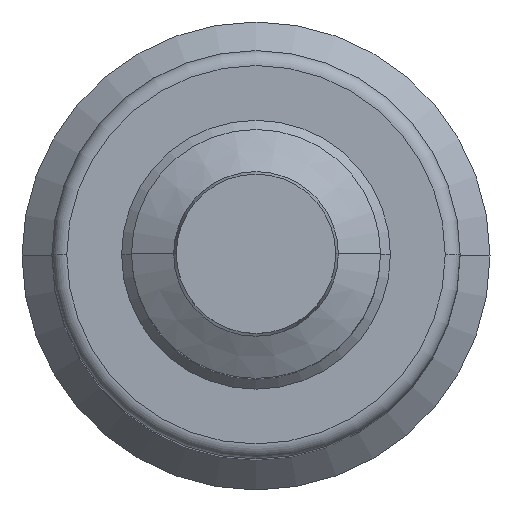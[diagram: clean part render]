
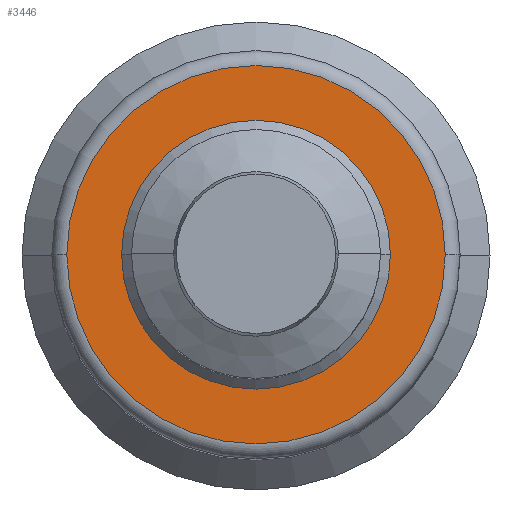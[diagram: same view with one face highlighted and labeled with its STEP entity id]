
A CAD part, top view. The second image highlights one B-rep face of the part: STEP entity #3446.
In plain terms, the highlighted planar face has unit normal (0, 0, 1).
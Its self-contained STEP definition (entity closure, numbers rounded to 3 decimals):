
#153 = EDGE_LOOP ( 'NONE', ( #2246, #2247 ) ) ;
#154 = EDGE_LOOP ( 'NONE', ( #2248, #2249 ) ) ;
#567 = VERTEX_POINT ( 'NONE', #18254 ) ;
#568 = VERTEX_POINT ( 'NONE', #18253 ) ;
#589 = VERTEX_POINT ( 'NONE', #18264 ) ;
#590 = VERTEX_POINT ( 'NONE', #18263 ) ;
#1983 = EDGE_CURVE ( 'NONE', #568, #589, #6652, .T. ) ;
#1985 = EDGE_CURVE ( 'NONE', #567, #590, #6654, .T. ) ;
#1998 = EDGE_CURVE ( 'NONE', #590, #567, #7977, .T. ) ;
#1999 = EDGE_CURVE ( 'NONE', #589, #568, #7978, .T. ) ;
#2246 = ORIENTED_EDGE ( 'NONE', *, *, #1983, .T. ) ;
#2247 = ORIENTED_EDGE ( 'NONE', *, *, #1999, .T. ) ;
#2248 = ORIENTED_EDGE ( 'NONE', *, *, #1985, .F. ) ;
#2249 = ORIENTED_EDGE ( 'NONE', *, *, #1998, .F. ) ;
#3446 = ADVANCED_FACE ( 'NONE', ( #9192, #9193 ), #8721, .T. ) ;
#4501 = AXIS2_PLACEMENT_3D ( 'NONE', #7512, #7513, #7514 ) ;
#4502 = AXIS2_PLACEMENT_3D ( 'NONE', #7517, #7518, #7519 ) ;
#4511 = AXIS2_PLACEMENT_3D ( 'NONE', #7552, #7553, #7554 ) ;
#4512 = AXIS2_PLACEMENT_3D ( 'NONE', #7555, #7556, #7557 ) ;
#4751 = AXIS2_PLACEMENT_3D ( 'NONE', #8722, #8723, #8724 ) ;
#6652 = CIRCLE ( 'NONE', #4501, 27. ) ;
#6654 = CIRCLE ( 'NONE', #4502, 38. ) ;
#7512 = CARTESIAN_POINT ( 'NONE',  ( 0., 0., 195. ) ) ;
#7513 = DIRECTION ( 'NONE',  ( 0., 0., -1. ) ) ;
#7514 = DIRECTION ( 'NONE',  ( -1., 0., 0. ) ) ;
#7517 = CARTESIAN_POINT ( 'NONE',  ( 0., 0., 195. ) ) ;
#7518 = DIRECTION ( 'NONE',  ( 0., 0., -1. ) ) ;
#7519 = DIRECTION ( 'NONE',  ( -1., 0., 0. ) ) ;
#7552 = CARTESIAN_POINT ( 'NONE',  ( 0., 0., 195. ) ) ;
#7553 = DIRECTION ( 'NONE',  ( 0., 0., -1. ) ) ;
#7554 = DIRECTION ( 'NONE',  ( -1., 0., 0. ) ) ;
#7555 = CARTESIAN_POINT ( 'NONE',  ( 0., 0., 195. ) ) ;
#7556 = DIRECTION ( 'NONE',  ( 0., 0., -1. ) ) ;
#7557 = DIRECTION ( 'NONE',  ( -1., 0., 0. ) ) ;
#7977 = CIRCLE ( 'NONE', #4511, 38. ) ;
#7978 = CIRCLE ( 'NONE', #4512, 27. ) ;
#8721 = PLANE ( 'NONE',  #4751 ) ;
#8722 = CARTESIAN_POINT ( 'NONE',  ( -27., 0., 195. ) ) ;
#8723 = DIRECTION ( 'NONE',  ( 0., 0., 1. ) ) ;
#8724 = DIRECTION ( 'NONE',  ( 1., 0., 0. ) ) ;
#9192 = FACE_BOUND ( 'NONE', #153, .T. ) ;
#9193 = FACE_OUTER_BOUND ( 'NONE', #154, .T. ) ;
#18253 = CARTESIAN_POINT ( 'NONE',  ( -27., 0., 195. ) ) ;
#18254 = CARTESIAN_POINT ( 'NONE',  ( -38., 0., 195. ) ) ;
#18263 = CARTESIAN_POINT ( 'NONE',  ( 38., 0., 195. ) ) ;
#18264 = CARTESIAN_POINT ( 'NONE',  ( 27., 0., 195. ) ) ;
